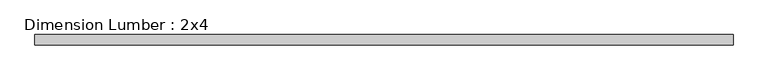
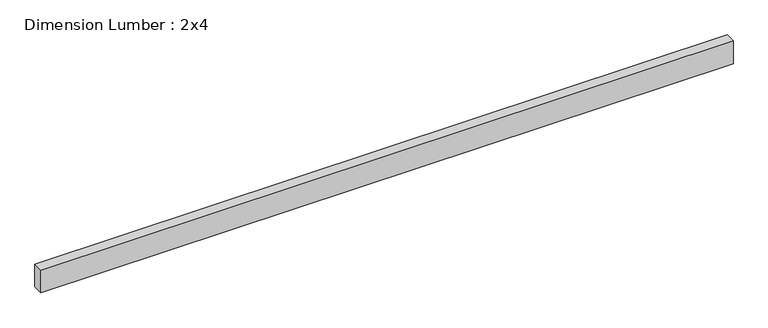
"""IFC4 building model written with IfcOpenShell, lengths in millimetres: beam geometry, Dimension Lumber : 2x4."""

import ifcopenshell
import ifcopenshell.guid

model = None  # the IFC model being written
_history = None  # IfcOwnerHistory: only IFC2X3 demands one
_inside = {}  # id of a spatial element -> (the spatial element, [elements in it])
_under = {}  # id of a project, library or spatial element -> (it, [spatial elements below it])
_declared = {}  # id of a project -> (the project, [libraries it declares])
_typed = {}  # id of a type object -> (the type object, [elements of that type])
_made_of = {}  # id of a material, layer set ... -> (it, [elements and type objects made of it])


def new_model(schema):
    """Start an empty IFC model of exactly this schema.

    Asked for "IFC4X3", IfcOpenShell would pick the latest addendum, in which some entities
    have other attributes; the version numbers below select the first issue.
    IFC2X3 requires an IfcOwnerHistory on every rooted entity: one is made here for all.
    """
    global model, _history
    if schema == "IFC4X3":
        model = ifcopenshell.file(schema_version=(4, 3, 0, 0))
    else:
        model = ifcopenshell.file(schema=schema)
    _inside.clear()
    _under.clear()
    _declared.clear()
    _typed.clear()
    _made_of.clear()
    _history = None
    if model.schema == "IFC2X3":
        org = make("IfcOrganization", Name="unknown")
        user = make(
            "IfcPersonAndOrganization",
            ThePerson=make("IfcPerson", FamilyName="unknown"),
            TheOrganization=org,
        )
        app = make(
            "IfcApplication",
            ApplicationDeveloper=org,
            Version="unknown",
            ApplicationFullName="unknown",
            ApplicationIdentifier="unknown",
        )
        _history = make(
            "IfcOwnerHistory",
            OwningUser=user,
            OwningApplication=app,
            ChangeAction="ADDED",
            CreationDate=0,
        )
    return model


def make(cls, **values):
    """One entity of the class cls with the attributes given. An attribute that is None is left unset."""
    return model.create_entity(
        cls, **{name: value for name, value in values.items() if value is not None}
    )


def rooted(cls, **values):
    """An entity with a GlobalId (a new one), such as an element, a storey or a relation."""
    return make(cls, GlobalId=ifcopenshell.guid.new(), OwnerHistory=_history, **values)


def si_unit(unit_type, name, prefix=None):
    """IfcSIUnit, for example si_unit("LENGTHUNIT", "METRE", prefix="MILLI")."""
    return make("IfcSIUnit", UnitType=unit_type, Prefix=prefix, Name=name)


def assignment(units):
    """IfcUnitAssignment: the units of a project."""
    return None if units is None else make("IfcUnitAssignment", Units=units)


def point(xyz):
    """IfcCartesianPoint."""
    return None if xyz is None else make("IfcCartesianPoint", Coordinates=xyz)


def direction(xyz):
    """IfcDirection."""
    return None if xyz is None else make("IfcDirection", DirectionRatios=xyz)


def frame(location, z_axis=None, x_axis=None):
    """IfcAxis2Placement3D, a coordinate frame: its origin and axes. An axis left out is left unset."""
    return make(
        "IfcAxis2Placement3D",
        Location=point(location),
        Axis=direction(z_axis),
        RefDirection=direction(x_axis),
    )


def origin():
    """The frame at (0, 0, 0) with its axes left unset."""
    return frame((0.0, 0.0, 0.0))


def place(relative_to, where):
    """IfcLocalPlacement: puts the frame where relative to a parent placement (None: the world)."""
    return make(
        "IfcLocalPlacement", PlacementRelTo=relative_to, RelativePlacement=where
    )


def context(
    kind, dimensions, precision=None, world=None, true_north=None, identifier=None
):
    """IfcGeometricRepresentationContext, for example the 3D "Model" context."""
    return make(
        "IfcGeometricRepresentationContext",
        ContextIdentifier=identifier,
        ContextType=kind,
        CoordinateSpaceDimension=dimensions,
        Precision=precision,
        WorldCoordinateSystem=world,
        TrueNorth=true_north,
    )


def project(units=None, contexts=None):
    """IfcProject with its units and contexts."""
    return rooted(
        "IfcProject",
        Name="project",
        RepresentationContexts=contexts,
        UnitsInContext=assignment(units),
    )


def spatial(cls, under=None, at=None, **own):
    """A site, building, storey or space (cls), placed at a placement, below another one or the project."""
    s = rooted(cls, ObjectPlacement=at, **own)
    if under is not None:
        _under.setdefault(under.id(), (under, []))[1].append(s)
    return s


def polyline(points):
    """IfcPolyline through the points."""
    return make("IfcPolyline", Points=[point(p) for p in points])


def outline(outer, holes=None, kind="AREA"):
    """IfcArbitraryClosedProfileDef: a profile drawn as a closed curve; with holes, ...WithVoids."""
    if holes is None:
        return make("IfcArbitraryClosedProfileDef", ProfileType=kind, OuterCurve=outer)
    return make(
        "IfcArbitraryProfileDefWithVoids",
        ProfileType=kind,
        OuterCurve=outer,
        InnerCurves=holes,
    )


def extrude(swept, where, along, depth):
    """IfcExtrudedAreaSolid: the profile swept, set in the frame where, extruded along a direction by depth."""
    return make(
        "IfcExtrudedAreaSolid",
        SweptArea=swept,
        Position=where,
        ExtrudedDirection=direction(along),
        Depth=depth,
    )


def shape(context_of_items, identifier, shape_type, items):
    """IfcShapeRepresentation: the items that make up one representation, for example the "Body"."""
    return make(
        "IfcShapeRepresentation",
        ContextOfItems=context_of_items,
        RepresentationIdentifier=identifier,
        RepresentationType=shape_type,
        Items=items,
    )


def source(mapping_origin, context_of_items, identifier, shape_type, items):
    """IfcRepresentationMap: a shape defined once, which mapped items show again and again."""
    return make(
        "IfcRepresentationMap",
        MappingOrigin=mapping_origin,
        MappedRepresentation=shape(context_of_items, identifier, shape_type, items),
    )


def transform(
    local_origin,
    x_axis=None,
    y_axis=None,
    z_axis=None,
    scale=None,
    scale2=None,
    scale3=None,
    uniform=True,
):
    """IfcCartesianTransformationOperator3D, or its non-uniform kind. x_axis, y_axis, z_axis: its Axis1, 2, 3."""
    if uniform:
        return make(
            "IfcCartesianTransformationOperator3D",
            Axis1=direction(x_axis),
            Axis2=direction(y_axis),
            LocalOrigin=point(local_origin),
            Scale=scale,
            Axis3=direction(z_axis),
        )
    return make(
        "IfcCartesianTransformationOperator3DnonUniform",
        Axis1=direction(x_axis),
        Axis2=direction(y_axis),
        LocalOrigin=point(local_origin),
        Scale=scale,
        Axis3=direction(z_axis),
        Scale2=scale2,
        Scale3=scale3,
    )


def mapped(mapping_source, mapping_target):
    """IfcMappedItem: shows the shape of a source again, moved by a transform."""
    return make(
        "IfcMappedItem", MappingSource=mapping_source, MappingTarget=mapping_target
    )


def made_of(thing, what):
    """Note that an element or type object is made of a material, layer set ...; save() writes the relation."""
    if what is not None:
        _made_of.setdefault(what.id(), (what, []))[1].append(thing)
    return thing


def element(
    cls,
    number,
    at=None,
    inside=None,
    cuts=None,
    type_object=None,
    material=None,
    context=None,
    identifier="Body",
    shape_type=None,
    held_by="IfcProductDefinitionShape",
    body=None,
    shapes=None,
    **own,
):
    """One element of the class cls, such as IfcWall. Its Tag is "e" and its number.

    at: its placement. inside: the storey or other place that contains it. cuts: it is an
    opening in that element (IfcRelVoidsElement). A single representation is given by context,
    identifier, shape_type and body (its items); several are given by shapes. held_by: the class
    of the entity that holds the representations. save() writes the other relations.
    """
    e = rooted(cls, Tag="e%d" % number, ObjectPlacement=at, **own)
    if body is not None:
        shapes = [shape(context, identifier, shape_type, body)]
    if shapes is not None:
        e.Representation = make(held_by, Representations=shapes)
    if inside is not None:
        _inside.setdefault(inside.id(), (inside, []))[1].append(e)
    if cuts is not None:
        rooted(
            "IfcRelVoidsElement", RelatingBuildingElement=cuts, RelatedOpeningElement=e
        )
    if type_object is not None:
        _typed.setdefault(type_object.id(), (type_object, []))[1].append(e)
    return made_of(e, material)


def aggregate(whole, parts):
    """IfcRelAggregates: a whole, such as a stair, and the parts it consists of."""
    return rooted("IfcRelAggregates", RelatingObject=whole, RelatedObjects=parts)


def save(model, path):
    """Write the relations noted so far, then the file.

    IfcRelAggregates (storeys below a building ...), IfcRelContainedInSpatialStructure (elements
    in a storey), IfcRelDefinesByType, IfcRelAssociatesMaterial and IfcRelDeclares: one each for
    every whole, place, type object, material and project.
    """
    for whole, parts in _under.values():
        aggregate(whole, parts)
    for where, things in _inside.values():
        rooted(
            "IfcRelContainedInSpatialStructure",
            RelatedElements=things,
            RelatingStructure=where,
        )
    for kind, things in _typed.values():
        rooted("IfcRelDefinesByType", RelatedObjects=things, RelatingType=kind)
    for what, things in _made_of.values():
        rooted("IfcRelAssociatesMaterial", RelatedObjects=things, RelatingMaterial=what)
    for by, libraries in _declared.values():
        rooted("IfcRelDeclares", RelatingContext=by, RelatedDefinitions=libraries)
    model.write(path)


def dimension_lumber_2x4_0b7220cc(model_context):
    return source(origin(), model_context, "Body", "SweptSolid", [
        extrude(outline(polyline([(1277.9375, 19.05), (1277.9375, -19.05), (-1277.9375, -19.05), (-1277.9375, 19.05), (1277.9375, 19.05)])), frame((0.0, 0.0, -44.45), z_axis=(0.0, 0.0, 1.0), x_axis=(1.0, 0.0, 0.0)), (0.0, 0.0, 1.0), 88.9),
    ])


if __name__ == "__main__":
    model = new_model("IFC4")
    model_context = context("Model", 3, world=origin())
    ifc_project = project(units=[si_unit("LENGTHUNIT", "METRE", prefix="MILLI")], contexts=[model_context])
    site = spatial("IfcSite", under=ifc_project)
    building = spatial("IfcBuilding", under=site)
    placement = place(None, origin())
    dimension_lumber_2x4_shape = dimension_lumber_2x4_0b7220cc(model_context)
    element("IfcBeam", 1, ObjectType="Dimension Lumber : 2x4", at=placement, inside=building, context=model_context, shape_type="MappedRepresentation", body=[
        mapped(dimension_lumber_2x4_shape, transform((0.0, 0.0, 0.0), x_axis=(1.0, 0.0, 0.0), y_axis=(0.0, 1.0, 0.0), z_axis=(0.0, 0.0, 1.0))),
    ])
    save(model, "model.ifc")
